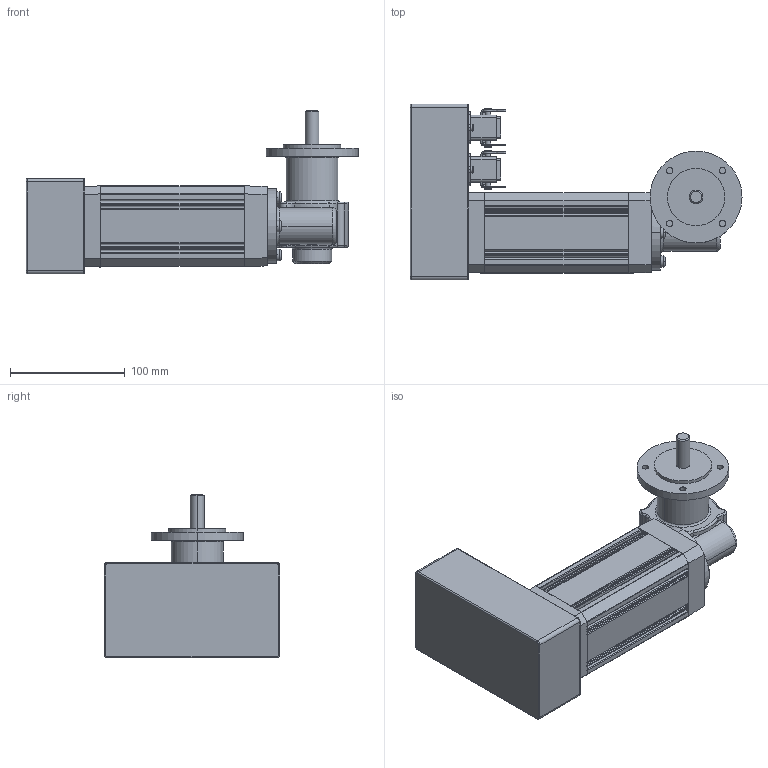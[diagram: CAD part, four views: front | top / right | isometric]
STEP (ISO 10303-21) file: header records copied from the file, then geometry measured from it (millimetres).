
FILE_DESCRIPTION(('OneSpaceDesigner STEP Export'),'2;1');
FILE_NAME('UECG323TH_GF127_F.stp','2008-06-24T15:48:53',(''),(''),'OneSpace Designer STEP processor (Jan. 2003) for AP214(CD)(Solid Model)','OneSpace Designer 12.01D 09-Jul-2004 (C) CoCreate Software GmbH','');
FILE_SCHEMA(('AUTOMOTIVE_DESIGN_CC2 {1 2 10303 214 -1 1 5 1}'));
Length unit declared in the file: millimetre
Products named in the file (2): UECG323TH_GF127_F
Assembly tree (1 placements, depth 2):
  UECG323TH_GF127_F
    UECG323TH_GF127_F
Bounding box: 289 x 153 x 142.5 mm (x, y, z)
Volume: 1719741.6 mm3; surface area: 150643.9 mm2
Topology: 1 solids, 1 shells, 594 faces, 1599 edges, 1037 vertices
Faces by surface type: cylinder 303, plane 197, torus 90, cone 4
Entity records: 19535 total; most frequent: CARTESIAN_POINT 5239, ORIENTED_EDGE 3198, DIRECTION 2853, EDGE_CURVE 1599, AXIS2_PLACEMENT_3D 1043, VERTEX_POINT 1037, VECTOR 767, LINE 767
